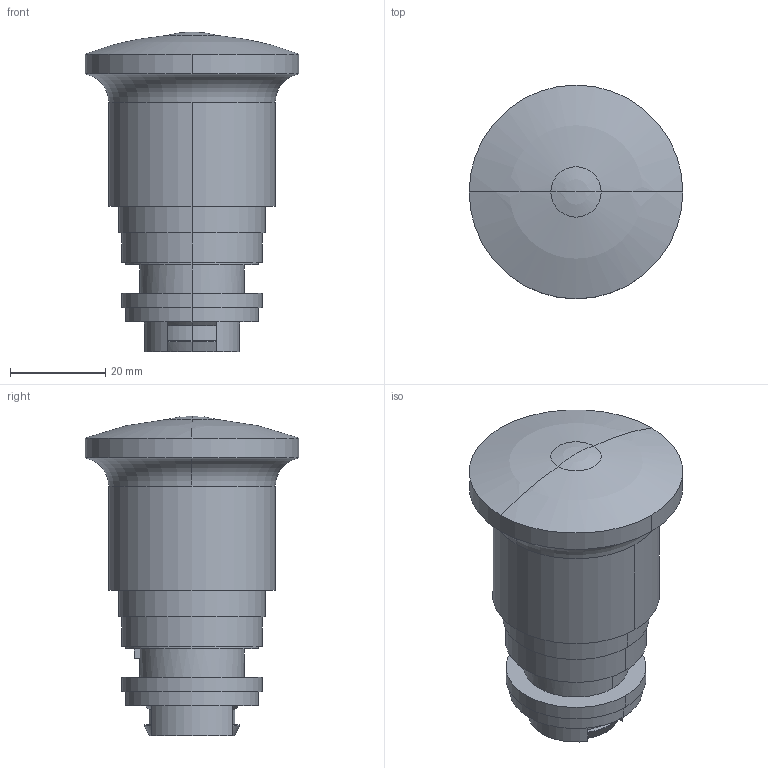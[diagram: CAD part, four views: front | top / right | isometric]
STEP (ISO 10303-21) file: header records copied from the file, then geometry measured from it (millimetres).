
FILE_DESCRIPTION( ( '' ), '1' );
FILE_NAME( '//expscmdclustefs.cadenas.external/client_exchange/iodir/jobs/output/wkb46014462_no0/STEP/152862_2_03.stp', '2012-06-15T15:23:31', ( '' ), ( '' ), ' ', ' ', ' ' );
FILE_SCHEMA( ( 'CONFIG_CONTROL_DESIGN' ) );
Length unit declared in the file: millimetre
Products named in the file (1): 1
Bounding box: 45 x 45 x 67.3 mm (x, y, z)
Volume: 54613.6 mm3; surface area: 9821.2 mm2
Topology: 1 solids, 1 shells, 61 faces, 153 edges, 99 vertices
Faces by surface type: plane 25, cylinder 22, cone 8, sphere 4, torus 2
Entity records: 1880 total; most frequent: DIRECTION 346, CARTESIAN_POINT 328, ORIENTED_EDGE 302, EDGE_CURVE 151, AXIS2_PLACEMENT_3D 141, VERTEX_POINT 99, CIRCLE 77, EDGE_LOOP 68
